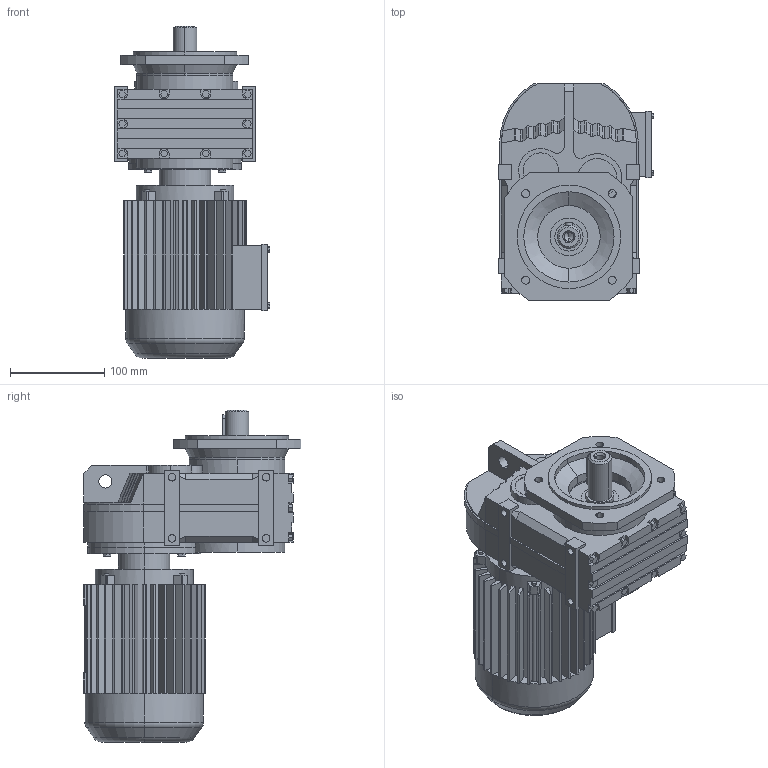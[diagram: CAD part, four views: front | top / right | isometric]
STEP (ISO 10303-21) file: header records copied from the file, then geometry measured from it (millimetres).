
FILE_DESCRIPTION(('Open CASCADE Model'),'2;1');
FILE_NAME('Open CASCADE Shape Model','2021-07-14T17:14:02',('Author'),( 'Open CASCADE'),'Open CASCADE STEP processor 6.3','Open CASCADE 6.3' ,'Unknown');
FILE_SCHEMA(('AUTOMOTIVE_DESIGN_CC2 { 1 2 10303 214 -1 1 5 4 }'));
Length unit declared in the file: millimetre
Products named in the file (5): 1_FF27-Y63S; FA27‵157_27.step; 萇儂_120_Y63S.step; す瑩妗陑粣F_27.step; 楊擘F_27.step
Assembly tree (4 placements, depth 2):
  1_FF27-Y63S
    FA27‵157_27.step
    萇儂_120_Y63S.step
    す瑩妗陑粣F_27.step
    楊擘F_27.step
Bounding box: 165 x 231.7 x 353 mm (x, y, z)
Volume: 4784218.4 mm3; surface area: 424292.7 mm2
Topology: 4 solids, 4 shells, 813 faces, 2146 edges, 1392 vertices
Faces by surface type: plane 570, cylinder 211, bspline 16, cone 12, torus 4
Entity records: 55301 total; most frequent: CARTESIAN_POINT 14235, DIRECTION 7157, ORIENTED_EDGE 4288, PCURVE 4288, DEFINITIONAL_REPRESENTATION 4288, LINE 3995, VECTOR 3995, EDGE_CURVE 2144
